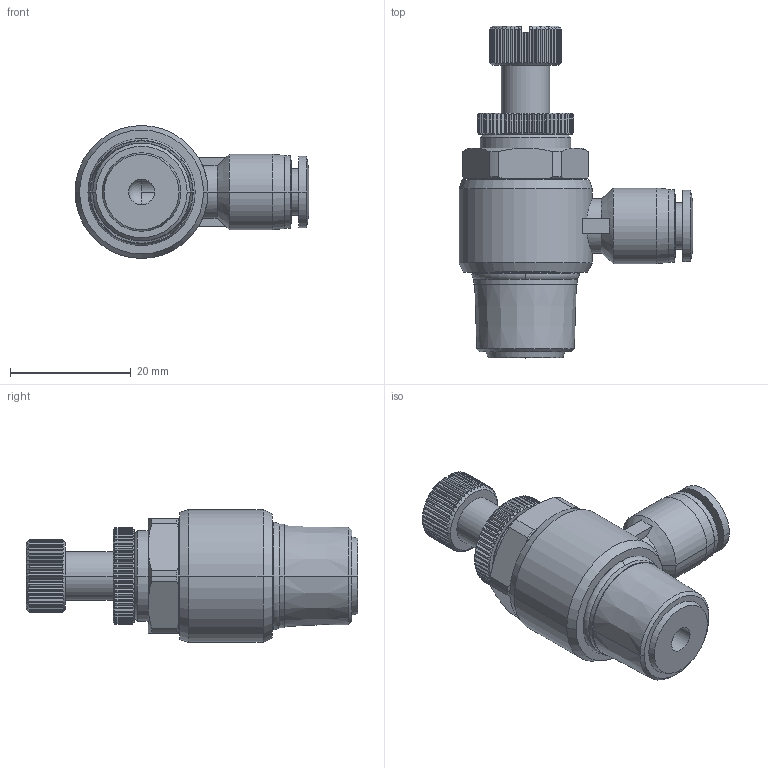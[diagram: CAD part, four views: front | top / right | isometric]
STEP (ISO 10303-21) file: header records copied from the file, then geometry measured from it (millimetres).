
FILE_DESCRIPTION (( 'STEP AP203' ), '1' );
FILE_NAME ('SCL06-03.STEP', '2020-05-12T15:35:02', ( '' ), ( '' ), 'SwSTEP 2.0', 'SolidWorks 2019', '' );
FILE_SCHEMA (( 'CONFIG_CONTROL_DESIGN' ));
Length unit declared in the file: millimetre
Products named in the file (1): SCL06-03
Bounding box: 38.7 x 54.9 x 22 mm (x, y, z)
Volume: 13296 mm3; surface area: 5374.7 mm2
Topology: 1 solids, 1 shells, 566 faces, 1377 edges, 825 vertices
Faces by surface type: plane 254, cone 161, cylinder 146, torus 4, sphere 1
Entity records: 16037 total; most frequent: CARTESIAN_POINT 3804, ORIENTED_EDGE 2752, DIRECTION 2518, EDGE_CURVE 1376, AXIS2_PLACEMENT_3D 1043, VERTEX_POINT 825, EDGE_LOOP 581, FACE_OUTER_BOUND 566
